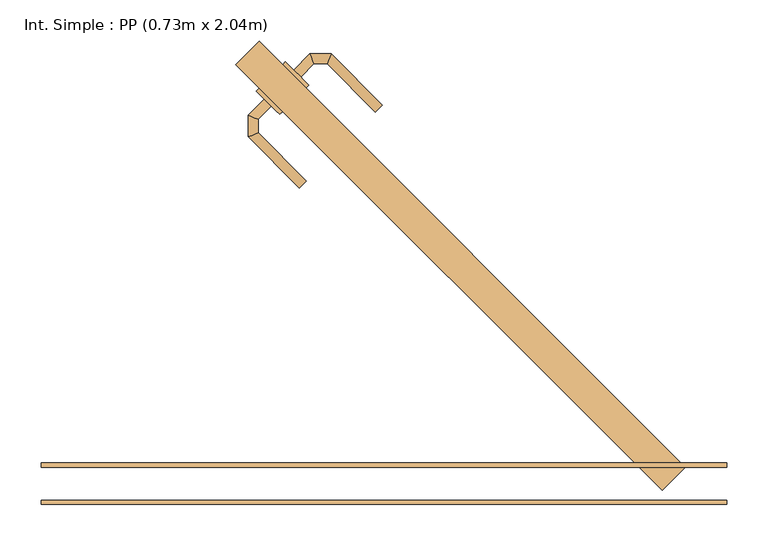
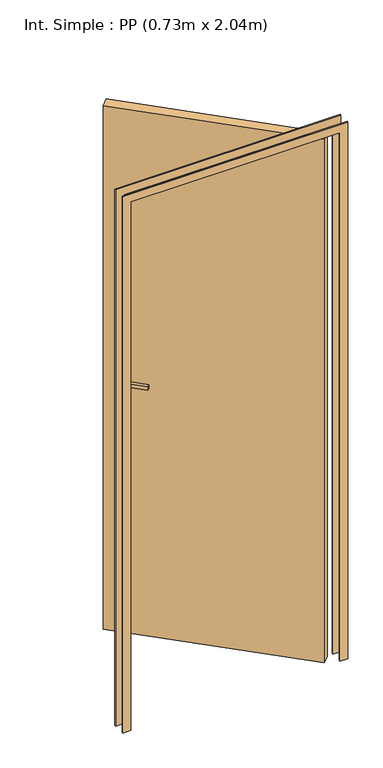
"""IFC4 building model written with IfcOpenShell, lengths in millimetres: door geometry, Int. Simple : PP (0.73m x 2.04m)."""

from ifc_helpers import new_model, si_unit, point, frame, frame_2d, origin, origin_with_axes, place, context, project, spatial, polyline, circle_curve, ellipse_curve, trimmed, segment, composite_curve, outline, extrude, source, transform, mapped, element, save
from ifc_brep_helpers import plane_surface, cylinder_surface, advanced_brep


def int_simple_pp_0_73m_x_2_04m_9310f2cf(model_context):
    return source(origin(), model_context, "Body", "SolidModel", [
        extrude(outline(composite_curve([segment(trimmed(circle_curve(frame_2d((0.0, 40.0000001)), 40.0), [point((34.6410162, 60.0))], [point((34.6410162, 20.0000001))], False, "CARTESIAN"), True, "CONTINUOUS"), segment(polyline([(34.6410162, 20.0000001), (-175.3589838, 20.0000001)]), True, "CONTINUOUS"), segment(trimmed(circle_curve(frame_2d((-140.7179676, 40.0000001)), 40.0), [point((-175.3589838, 20.0000001))], [point((-175.3589838, 60.0))], False, "CARTESIAN"), True, "CONTINUOUS"), segment(polyline([(-175.3589838, 60.0), (34.6410162, 60.0)]), True, "CONTINUOUS")], self_intersect=False)), frame((-115.4772721, 465.4772721, 904.6410162), z_axis=(0.7071067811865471, 0.707106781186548, 0.0), x_axis=(0.0, 0.0, -1.0)), (0.0, 0.0, 1.0), 5.0),
        extrude(outline(composite_curve([segment(trimmed(circle_curve(frame_2d((0.0, 39.9999999)), 40.0), [point((-34.6410162, 20.0))], [point((-34.6410162, 60.0))], False, "CARTESIAN"), True, "CONTINUOUS"), segment(polyline([(-34.6410162, 60.0), (175.3589838, 60.0)]), True, "CONTINUOUS"), segment(trimmed(circle_curve(frame_2d((140.7179676, 39.9999999)), 40.0), [point((175.3589838, 60.0))], [point((175.3589838, 20.0))], False, "CARTESIAN"), True, "CONTINUOUS"), segment(polyline([(175.3589838, 20.0), (-34.6410162, 20.0)]), True, "CONTINUOUS")], self_intersect=False)), frame((-147.2970773, 433.657467, 1045.3589838), z_axis=(0.7071067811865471, 0.707106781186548, 0.0), x_axis=(0.0, 0.0, -1.0)), (0.0, 0.0, 1.0), 5.0),
        advanced_brep(
        [(-144.4686502, 501.539718, 1007.0), (-144.4686502, 501.539718, 993.0), (-135.9833688, 493.0544366, 993.0), (-135.9833688, 493.0544366, 1007.0), (-119.9459127, 509.0918927, 1007.0), (-124.9164754, 521.0918927, 1007.0), (-119.9459127, 509.0918927, 993.0), (-124.9164754, 521.0918927, 993.0), (-103.8977386, 509.0918927, 1007.0), (-98.9271758, 521.0918927, 1007.0), (-103.8977386, 509.0918927, 993.0), (-98.9271758, 521.0918927, 993.0), (-36.9553259, 459.1200428, 1007.0), (-45.4406073, 450.6347615, 1007.0), (-45.4406073, 450.6347615, 993.0), (-36.9553259, 459.1200428, 993.0)],
        [
            (0, 1),
            (1, 2, circle_curve(frame((-140.2260095, 497.2970773, 1013.0457722), z_axis=(-0.7071067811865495, -0.7071067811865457, 0.0), x_axis=(0.7071067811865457, -0.7071067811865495, 0.0)), 20.9244589)),
            (2, 3),
            (3, 0, circle_curve(frame((-140.2260095, 497.2970773, 986.9542278), z_axis=(-0.7071067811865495, -0.7071067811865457, 0.0), x_axis=(0.7071067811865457, -0.7071067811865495, 0.0)), 20.9244589)),
            (3, 4),
            (4, 5, ellipse_curve(frame((-122.4311941, 515.0918927, 986.9542278), z_axis=(-0.9238795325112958, -0.38268343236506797, 0.0), x_axis=(0.3826834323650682, -0.9238795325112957, 0.0)), 22.6484711, 20.9244589)),
            (5, 0),
            (2, 6),
            (6, 4),
            (1, 7),
            (7, 6, ellipse_curve(frame((-122.4311941, 515.0918927, 1013.0457722), z_axis=(-0.9238795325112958, -0.38268343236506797, 0.0), x_axis=(0.3826834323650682, -0.9238795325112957, 0.0)), 22.6484711, 20.9244589)),
            (5, 7),
            (4, 8),
            (8, 9, ellipse_curve(frame((-101.4124572, 515.0918927, 986.9542278), z_axis=(-0.9238795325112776, 0.38268343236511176, 0.0), x_axis=(-0.3826834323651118, -0.9238795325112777, 0.0)), 22.6484711, 20.9244589)),
            (9, 5),
            (6, 10),
            (10, 8),
            (7, 11),
            (11, 10, ellipse_curve(frame((-101.4124572, 515.0918927, 1013.0457722), z_axis=(-0.9238795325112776, 0.38268343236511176, 0.0), x_axis=(-0.3826834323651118, -0.9238795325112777, 0.0)), 22.6484711, 20.9244589)),
            (9, 11),
            (12, 13, circle_curve(frame((-41.1979666, 454.8774021, 986.9542278), z_axis=(0.7071067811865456, -0.7071067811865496, 0.0), x_axis=(-0.7071067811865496, -0.7071067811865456, 0.0)), 20.9244589)),
            (13, 14),
            (14, 15, circle_curve(frame((-41.1979666, 454.8774021, 1013.0457722), z_axis=(0.7071067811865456, -0.7071067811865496, 0.0), x_axis=(-0.7071067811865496, -0.7071067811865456, 0.0)), 20.9244589)),
            (15, 12),
            (8, 13),
            (12, 9),
            (10, 14),
            (11, 15),
        ],
        [
            plane_surface(frame((-146.7452119, 503.8162797, 1000.0), z_axis=(-0.7071067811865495, -0.7071067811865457, 0.0), x_axis=(0.0, 0.0, -1.0))),
            cylinder_surface(frame((-140.2260095, 497.2970773, 986.9542278), z_axis=(-0.7071067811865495, -0.7071067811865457, 0.0), x_axis=(0.7071067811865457, -0.7071067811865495, 0.0)), 20.9244589),
            plane_surface(frame((-135.9833688, 493.0544366, 1007.0), z_axis=(0.7071067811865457, -0.7071067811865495, 0.0), x_axis=(0.7071067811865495, 0.7071067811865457, 0.0))),
            cylinder_surface(frame((-140.2260095, 497.2970773, 1013.0457722), z_axis=(-0.7071067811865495, -0.7071067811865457, 0.0), x_axis=(0.7071067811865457, -0.7071067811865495, 0.0)), 20.9244589),
            plane_surface(frame((-144.4686502, 501.539718, 993.0), z_axis=(-0.7071067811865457, 0.7071067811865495, 0.0), x_axis=(0.7071067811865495, 0.7071067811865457, 0.0))),
            cylinder_surface(frame((-122.4311941, 515.0918927, 986.9542278), z_axis=(-1.0, 0.0, 0.0), x_axis=(0.0, -1.0, 0.0)), 20.9244589),
            plane_surface(frame((-119.9459127, 509.0918927, 1007.0), z_axis=(0.0, -1.0, 0.0), x_axis=(1.0, 0.0, 0.0))),
            cylinder_surface(frame((-122.4311941, 515.0918927, 1013.0457722), z_axis=(-1.0, 0.0, 0.0), x_axis=(0.0, -1.0, 0.0)), 20.9244589),
            plane_surface(frame((-124.9164754, 521.0918927, 993.0), z_axis=(0.0, 1.0, 0.0), x_axis=(1.0, 0.0, 0.0))),
            plane_surface(frame((-41.1979666, 454.8774021, 990.7804555), z_axis=(0.7071067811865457, -0.7071067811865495, 0.0), x_axis=(-0.7071067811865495, -0.7071067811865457, 0.0))),
            cylinder_surface(frame((-101.4124572, 515.0918927, 986.9542278), z_axis=(-0.7071067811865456, 0.7071067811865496, 0.0), x_axis=(-0.7071067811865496, -0.7071067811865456, 0.0)), 20.9244589),
            plane_surface(frame((-103.8977386, 509.0918927, 1007.0), z_axis=(-0.7071067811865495, -0.7071067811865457, 0.0), x_axis=(0.7071067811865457, -0.7071067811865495, 0.0))),
            cylinder_surface(frame((-101.4124572, 515.0918927, 1013.0457722), z_axis=(-0.7071067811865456, 0.7071067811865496, 0.0), x_axis=(-0.7071067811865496, -0.7071067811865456, 0.0)), 20.9244589),
            plane_surface(frame((-98.9271758, 521.0918927, 993.0), z_axis=(0.7071067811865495, 0.7071067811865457, 0.0), x_axis=(0.7071067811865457, -0.7071067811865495, 0.0))),
        ],
        [
            (0, [[1, 2, 3, 4]]),
            (1, [[5, 6, 7, -4]]),
            (2, [[8, 9, -5, -3]]),
            (3, [[10, 11, -8, -2]]),
            (4, [[-7, 12, -10, -1]]),
            (5, [[13, 14, 15, -6]]),
            (6, [[16, 17, -13, -9]]),
            (7, [[18, 19, -16, -11]]),
            (8, [[-15, 20, -18, -12]]),
            (9, [[21, 22, 23, 24]]),
            (10, [[25, -21, 26, -14]]),
            (11, [[27, -22, -25, -17]]),
            (12, [[28, -23, -27, -19]]),
            (13, [[-26, -24, -28, -20]]),
        ],
    ),
        advanced_brep(
        [(-171.3387079, 457.6990976, 993.0), (-179.8239892, 466.1843789, 993.0), (-179.8239892, 466.1843789, 1007.0), (-171.3387079, 457.6990976, 1007.0), (-187.2381484, 441.799657, 1007.0), (-187.2381484, 441.799657, 993.0), (-199.2381484, 446.7702197, 1007.0), (-199.2381484, 446.7702197, 993.0), (-187.2381484, 425.5570163, 1007.0), (-187.2381484, 425.5570163, 993.0), (-199.2381484, 420.5864535, 1007.0), (-199.2381484, 420.5864535, 993.0), (-128.8590574, 367.1779253, 993.0), (-128.8590574, 367.1779253, 1007.0), (-137.3443388, 358.6926439, 1007.0), (-137.3443388, 358.6926439, 993.0)],
        [
            (0, 1, circle_curve(frame((-175.5813485, 461.9417382, 1013.0457722), z_axis=(0.7071067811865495, 0.7071067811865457, 0.0), x_axis=(-0.7071067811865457, 0.7071067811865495, 0.0)), 20.9244589)),
            (1, 2),
            (2, 3, circle_curve(frame((-175.5813485, 461.9417382, 986.9542278), z_axis=(0.7071067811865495, 0.7071067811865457, 0.0), x_axis=(-0.7071067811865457, 0.7071067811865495, 0.0)), 20.9244589)),
            (3, 0),
            (3, 4),
            (4, 5),
            (5, 0),
            (2, 6),
            (6, 4, ellipse_curve(frame((-193.2381484, 444.2849383, 986.9542278), z_axis=(0.3826834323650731, 0.9238795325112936, 0.0), x_axis=(0.923879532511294, -0.38268343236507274, 0.0)), 22.6484711, 20.9244589)),
            (1, 7),
            (7, 6),
            (5, 7, ellipse_curve(frame((-193.2381484, 444.2849383, 1013.0457722), z_axis=(0.3826834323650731, 0.9238795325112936, 0.0), x_axis=(0.923879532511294, -0.38268343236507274, 0.0)), 22.6484711, 20.9244589)),
            (4, 8),
            (8, 9),
            (9, 5),
            (6, 10),
            (10, 8, ellipse_curve(frame((-193.2381484, 423.0717349, 986.9542278), z_axis=(-0.3826834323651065, 0.9238795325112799, 0.0), x_axis=(0.92387953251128, 0.3826834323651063, 0.0)), 22.6484711, 20.9244589)),
            (7, 11),
            (11, 10),
            (9, 11, ellipse_curve(frame((-193.2381484, 423.0717349, 1013.0457722), z_axis=(-0.3826834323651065, 0.9238795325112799, 0.0), x_axis=(0.92387953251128, 0.3826834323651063, 0.0)), 22.6484711, 20.9244589)),
            (12, 13),
            (13, 14, circle_curve(frame((-133.1016981, 362.9352846, 986.9542278), z_axis=(0.7071067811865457, -0.7071067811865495, 0.0), x_axis=(-0.7071067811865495, -0.7071067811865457, 0.0)), 20.9244589)),
            (14, 15),
            (15, 12, circle_curve(frame((-133.1016981, 362.9352846, 1013.0457722), z_axis=(0.7071067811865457, -0.7071067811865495, 0.0), x_axis=(-0.7071067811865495, -0.7071067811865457, 0.0)), 20.9244589)),
            (8, 13),
            (12, 9),
            (10, 14),
            (11, 15),
        ],
        [
            plane_surface(frame((-182.100551, 468.4609406, 1000.0), z_axis=(0.7071067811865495, 0.7071067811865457, 0.0), x_axis=(0.0, 0.0, 1.0))),
            plane_surface(frame((-171.3387079, 457.6990976, 993.0), z_axis=(0.7071067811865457, -0.7071067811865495, 0.0), x_axis=(-0.7071067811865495, -0.7071067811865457, 0.0))),
            cylinder_surface(frame((-175.5813485, 461.9417382, 986.9542278), z_axis=(0.7071067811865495, 0.7071067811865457, 0.0), x_axis=(-0.7071067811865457, 0.7071067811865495, 0.0)), 20.9244589),
            plane_surface(frame((-179.8239892, 466.1843789, 1007.0), z_axis=(-0.7071067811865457, 0.7071067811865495, 0.0), x_axis=(-0.7071067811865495, -0.7071067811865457, 0.0))),
            cylinder_surface(frame((-175.5813485, 461.9417382, 1013.0457722), z_axis=(0.7071067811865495, 0.7071067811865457, 0.0), x_axis=(-0.7071067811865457, 0.7071067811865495, 0.0)), 20.9244589),
            plane_surface(frame((-187.2381484, 441.799657, 993.0), z_axis=(1.0, 0.0, 0.0), x_axis=(0.0, -1.0, 0.0))),
            cylinder_surface(frame((-193.2381484, 444.2849383, 986.9542278), z_axis=(0.0, 1.0, 0.0), x_axis=(-1.0, 0.0, 0.0)), 20.9244589),
            plane_surface(frame((-199.2381484, 446.7702197, 1007.0), z_axis=(-1.0, 0.0, 0.0), x_axis=(0.0, -1.0, 0.0))),
            cylinder_surface(frame((-193.2381484, 444.2849383, 1013.0457722), z_axis=(0.0, 1.0, 0.0), x_axis=(-1.0, 0.0, 0.0)), 20.9244589),
            plane_surface(frame((-133.1016981, 362.9352846, 990.7804555), z_axis=(0.7071067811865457, -0.7071067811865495, 0.0), x_axis=(-0.7071067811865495, -0.7071067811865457, 0.0))),
            plane_surface(frame((-187.2381484, 425.5570163, 993.0), z_axis=(0.7071067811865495, 0.7071067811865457, 0.0), x_axis=(0.7071067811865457, -0.7071067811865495, 0.0))),
            cylinder_surface(frame((-193.2381484, 423.0717349, 986.9542278), z_axis=(-0.7071067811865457, 0.7071067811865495, 0.0), x_axis=(-0.7071067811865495, -0.7071067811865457, 0.0)), 20.9244589),
            plane_surface(frame((-199.2381484, 420.5864535, 1007.0), z_axis=(-0.7071067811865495, -0.7071067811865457, 0.0), x_axis=(0.7071067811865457, -0.7071067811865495, 0.0))),
            cylinder_surface(frame((-193.2381484, 423.0717349, 1013.0457722), z_axis=(-0.7071067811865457, 0.7071067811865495, 0.0), x_axis=(-0.7071067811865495, -0.7071067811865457, 0.0)), 20.9244589),
        ],
        [
            (0, [[1, 2, 3, 4]]),
            (1, [[5, 6, 7, -4]]),
            (2, [[8, 9, -5, -3]]),
            (3, [[10, 11, -8, -2]]),
            (4, [[-7, 12, -10, -1]]),
            (5, [[13, 14, 15, -6]]),
            (6, [[16, 17, -13, -9]]),
            (7, [[18, 19, -16, -11]]),
            (8, [[-15, 20, -18, -12]]),
            (9, [[21, 22, 23, 24]]),
            (10, [[25, -21, 26, -14]]),
            (11, [[27, -22, -25, -17]]),
            (12, [[28, -23, -27, -19]]),
            (13, [[-26, -24, -28, -20]]),
        ],
    ),
        extrude(outline(polyline([(-214.4722215, 507.903679), (-186.1879503, 536.1879503), (330.0, 20.0), (301.7157288, -8.2842712), (-214.4722215, 507.903679)])), origin_with_axes(), (0.0, 0.0, 1.0), 2040.0),
        extrude(outline(polyline([(0.0, -420.0), (2060.0, -420.0), (2060.0, 350.0), (0.0, 350.0), (0.0, 380.0), (2090.0, 380.0), (2090.0, -450.0), (0.0, -450.0), (0.0, -420.0)])), frame((0.0, 20.0, 0.0), z_axis=(0.0, 1.0, 0.0), x_axis=(0.0, 0.0, 1.0)), (0.0, 0.0, 1.0), 5.0),
        extrude(outline(polyline([(0.0, -420.0), (2060.0, -420.0), (2060.0, 350.0), (0.0, 350.0), (0.0, 380.0), (2090.0, 380.0), (2090.0, -450.0), (0.0, -450.0), (0.0, -420.0)])), frame((0.0, -25.0, 0.0), z_axis=(0.0, 1.0, 0.0), x_axis=(0.0, 0.0, 1.0)), (0.0, 0.0, 1.0), 5.0),
    ])


if __name__ == "__main__":
    model = new_model("IFC4")
    model_context = context("Model", 3, world=origin())
    ifc_project = project(units=[si_unit("LENGTHUNIT", "METRE", prefix="MILLI")], contexts=[model_context])
    site = spatial("IfcSite", under=ifc_project)
    building = spatial("IfcBuilding", under=site)
    placement = place(None, origin())
    int_simple_pp_0_73m_x_2_04m_shape = int_simple_pp_0_73m_x_2_04m_9310f2cf(model_context)
    element("IfcDoor", 1, ObjectType="Int. Simple : PP (0.73m x 2.04m)", at=placement, inside=building, context=model_context, shape_type="MappedRepresentation", body=[
        mapped(int_simple_pp_0_73m_x_2_04m_shape, transform((0.0, 0.0, 0.0), x_axis=(1.0, 0.0, 0.0), y_axis=(0.0, 1.0, 0.0), z_axis=(0.0, 0.0, 1.0))),
    ])
    save(model, "model.ifc")
